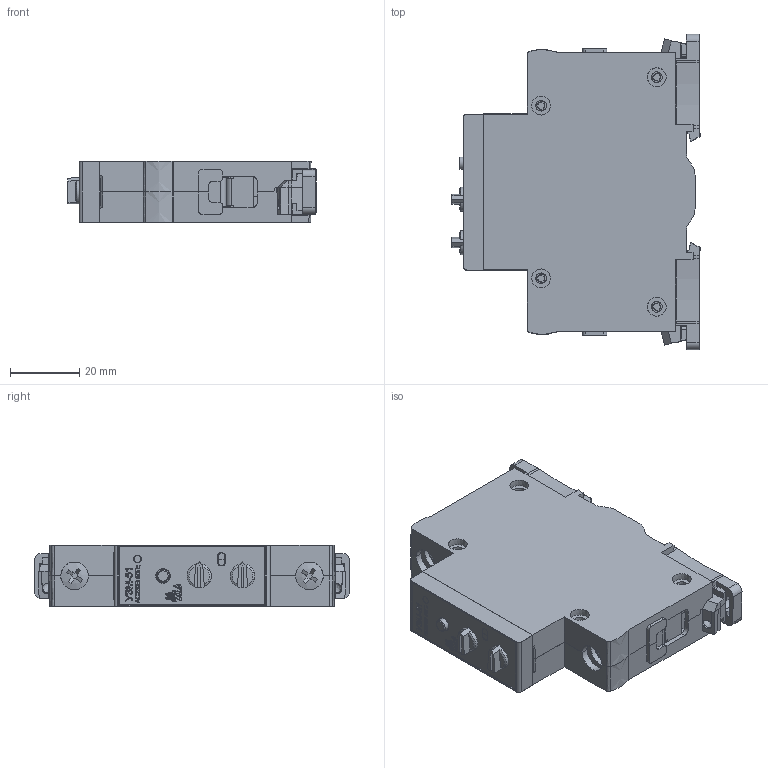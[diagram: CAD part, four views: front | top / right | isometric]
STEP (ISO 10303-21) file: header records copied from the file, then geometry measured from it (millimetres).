
FILE_DESCRIPTION(('STEP AP242'), '1');
FILE_NAME('栖闉罻_蚡岯51', '', ('UNSPECIFIED'), ('UNSPECIFIED'), 'C3D Converter', 'C3D Toolkit', '');
FILE_SCHEMA(('AP242_MANAGED_MODEL_BASED_3D_ENGINEERING_MIM_LF { 1 0 10303 442 1 1 4 }'));
Length unit declared in the file: millimetre
Products named in the file (15): MP27ｷЅｰё2 ; UZM80-1P_half_L; UZM80-1P_half_R; YP709BC80A-2018032201ѕІЖｬ; UZM-80_Terminal_Cage_v0; Screw_Headtype_=[)_+_(configurable)_M6_L14_Head10x3.5; Case_UC1-2sR_Face_2024_18mm__FR.FP.0000001; R-knob_2017_Hex2mm__Џｮ гｬｮｫзｭЁо; Case13-18-23mm_2step_Lock_v01a_Build20140909_1552
Assembly tree (17 placements, depth 3):
  MP27ｷЅｰё2 
    UZM80-1P_half_L
    UZM80-1P_half_R
    (unnamed)  x2
      YP709BC80A-2018032201ѕІЖｬ
      UZM-80_Terminal_Cage_v0
      Screw_Headtype_=[)_+_(configurable)_M6_L14_Head10x3.5
    Case_UC1-2sR_Face_2024_18mm__FR.FP.0000001
    (unnamed)
    (unnamed)
    R-knob_2017_Hex2mm__Џｮ гｬｮｫзｭЁо  x2
    (unnamed)
    (unnamed)
    (unnamed)
    Case13-18-23mm_2step_Lock_v01a_Build20140909_1552  x2
Bounding box: 71.92 x 91.4 x 17.75 mm (x, y, z)
Volume: 26986.7 mm3; surface area: 47899.9 mm2
Topology: 21 solids, 21 shells, 3646 faces, 10420 edges, 6859 vertices
Faces by surface type: plane 2909, cylinder 287, extrusion 245, cone 127, bspline 43, torus 25, sphere 10
Full cylindrical faces by diameter (mm): 2.2 x2, 3 x2, 3.5 x1, 4.2 x1, 4.5 x2, 5 x6, 10 x2
Entity records: 147353 total; most frequent: CARTESIAN_POINT 35280, ORIENTED_EDGE 19028, DIRECTION 15361, EDGE_CURVE 9514, VECTOR 8259, LINE 8014, VERTEX_POINT 6322, AXIS2_PLACEMENT_3D 3551
